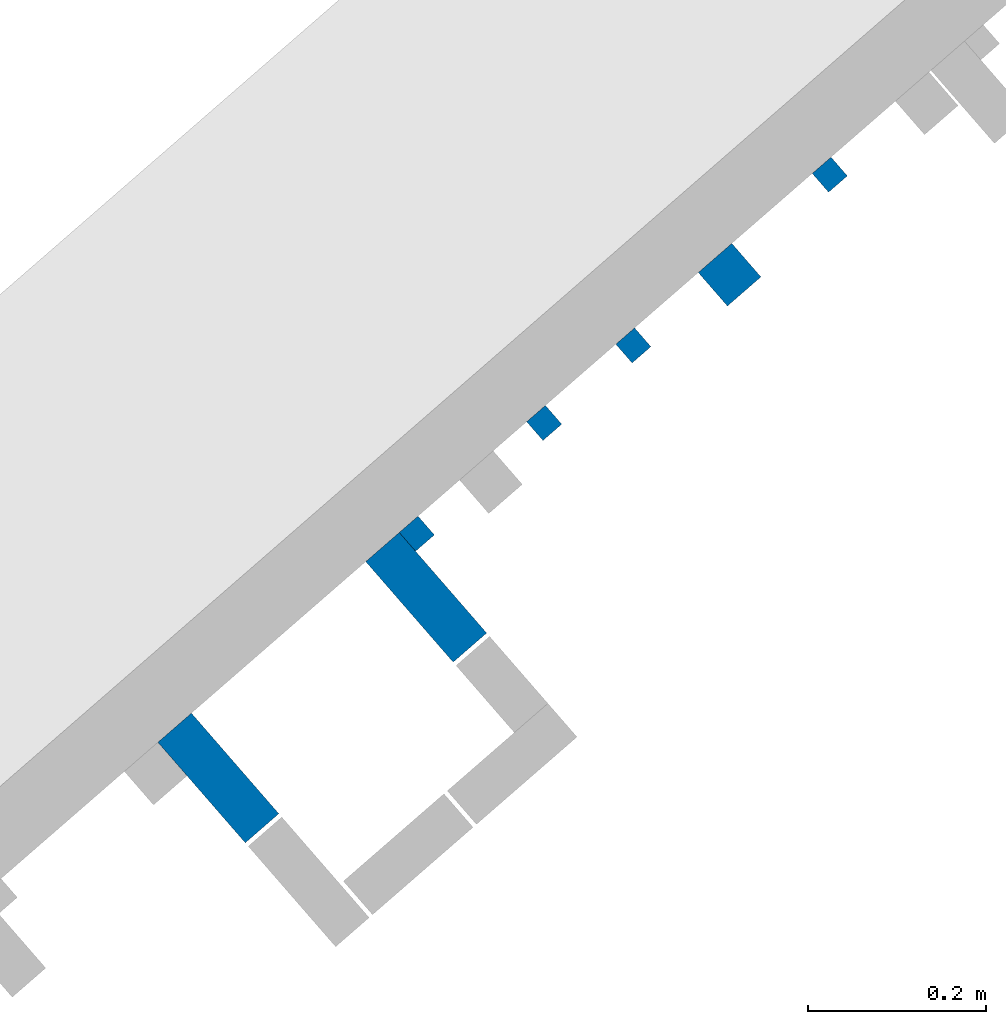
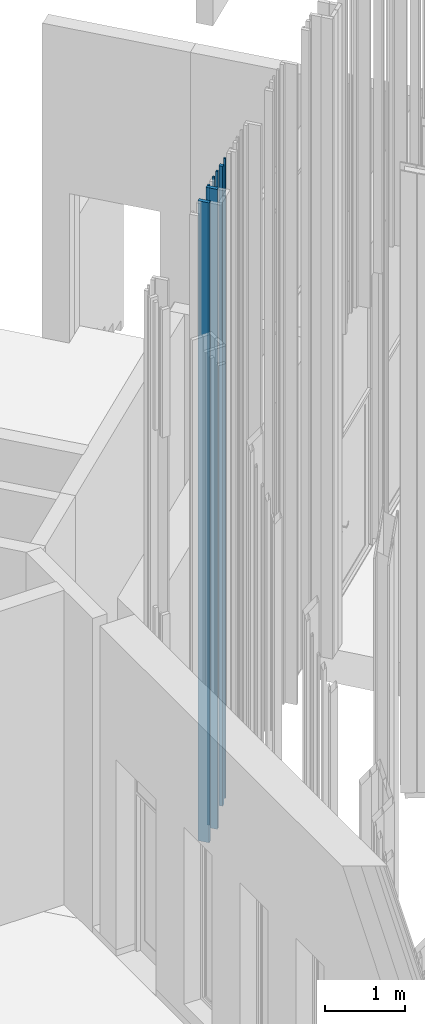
# One storey, part 197 of 390: 7 walls.
"""IFC2X3 building model written with IfcOpenShell, lengths in millimetres."""

from ifc_helpers import new_model, entity, si_unit, converted_unit, derived_unit, money_unit, direction, frame, origin_with_axes, place, context, subcontext, project, spatial, faceted_brep, material, type_object, element, save


model = new_model("IFC2X3")

# Units and contexts
model_context = context("Model", 3, precision=1e-05, world=origin_with_axes(), true_north=direction((0.0, 1.0)))
body_context = subcontext(model_context, "Body", "Model", "MODEL_VIEW")
ifc_project = project(units=[si_unit("LENGTHUNIT", "METRE", prefix="MILLI"), si_unit("AREAUNIT", "SQUARE_METRE"), si_unit("VOLUMEUNIT", "CUBIC_METRE"), converted_unit("PLANEANGLEUNIT", "DEGREE", entity("IfcPlaneAngleMeasure", 0.0174532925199), si_unit("PLANEANGLEUNIT", "RADIAN"), dimensions=[0, 0, 0, 0, 0, 0, 0]), si_unit("SOLIDANGLEUNIT", "STERADIAN"), money_unit("EUR"), converted_unit("TIMEUNIT", "Year", entity("IfcTimeMeasure", 31556926.0), si_unit("TIMEUNIT", "SECOND"), dimensions=[0, 0, 1, 0, 0, 0, 0]), si_unit("MASSUNIT", "GRAM", prefix="KILO"), si_unit("THERMODYNAMICTEMPERATUREUNIT", "DEGREE_CELSIUS"), si_unit("LUMINOUSINTENSITYUNIT", "LUMEN"), si_unit("ENERGYUNIT", "JOULE", prefix="MEGA"), derived_unit("THERMALCONDUCTANCEUNIT", [(si_unit("POWERUNIT", "WATT"), 1), (si_unit("LENGTHUNIT", "METRE"), -1), (si_unit("THERMODYNAMICTEMPERATUREUNIT", "KELVIN"), -1)]), derived_unit("SPECIFICHEATCAPACITYUNIT", [(si_unit("ENERGYUNIT", "JOULE"), 1), (si_unit("MASSUNIT", "GRAM", prefix="KILO"), -1), (si_unit("THERMODYNAMICTEMPERATUREUNIT", "KELVIN"), -1)]), derived_unit("MASSDENSITYUNIT", [(si_unit("MASSUNIT", "GRAM", prefix="KILO"), 1), (si_unit("VOLUMEUNIT", "CUBIC_METRE"), -1)])], contexts=[model_context])

# Site, building, storey
site_placement = place(None, origin_with_axes())
site = spatial("IfcSite", under=ifc_project, at=site_placement, Name="Site", CompositionType="ELEMENT")
building_placement = place(site_placement, origin_with_axes())
building = spatial("IfcBuilding", under=site, at=building_placement, Name="Building", CompositionType="ELEMENT")
storey_placement = place(building_placement, origin_with_axes())
storey = spatial("IfcBuildingStorey", under=building, at=storey_placement, Name="1 korrus", CompositionType="ELEMENT", Elevation=0.0)

# Walls
ifc_material = material(Name="Site specified")
wall_type_1 = type_object("IfcWallType", Name="Puitfassaadi ribistik", PredefinedType="NOTDEFINED")
wall_1_placement = place(storey_placement, frame((142121.066175, 68189.1497848, 100.0), z_axis=(0.0, 0.0, 1.0), x_axis=(-0.754709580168, -0.656059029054, 0.0)))
element("IfcWall", 1, at=wall_1_placement, inside=storey, type_object=wall_type_1, material=ifc_material, Name="Site specified", context=body_context, shape_type="Brep", body=[
    faceted_brep([(14.0, -14.0, 9765.0), (-14.0, -14.0, 9765.0), (-14.0, -14.0, 0.0), (14.0, -14.0, 0.0), (14.0, 14.0, 9765.0), (-14.0, 14.0, 9765.0), (-14.0, 14.0, 0.0), (14.0, 14.0, 0.0)], [[[0, 1, 2, 3]], [[4, 5, 1, 0]], [[1, 5, 6, 2]], [[7, 3, 2, 6]], [[4, 0, 3, 7]], [[5, 4, 7, 6]]]),
])
wall_2_placement = place(storey_placement, frame((142008.284001, 68076.5345938, 100.0), z_axis=(0.0, 0.0, 1.0), x_axis=(-0.754709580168, -0.656059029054, 0.0)))
element("IfcWall", 2, at=wall_2_placement, inside=storey, type_object=wall_type_1, material=ifc_material, Name="Site specified", context=body_context, shape_type="Brep", body=[
    faceted_brep([(-25.0, -25.0, 9765.0), (-25.0, -25.0, 0.0), (25.0, -25.0, 0.0), (25.0, -25.0, 9765.0), (-25.0, 25.0, 9765.0), (-25.0, 25.0, 0.0), (25.0, 25.0, 0.0), (25.0, 25.0, 9765.0)], [[[0, 1, 2, 3]], [[4, 5, 1, 0]], [[2, 1, 5, 6]], [[3, 2, 6, 7]], [[4, 0, 3, 7]], [[7, 6, 5, 4]]]),
])
for number, where, z_axis, x_axis, name in (
    (3, (141899.936268, 67996.9244893, 100.0), (0.0, 0.0, 1.0), (-0.754709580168, -0.656059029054, 0.0), "Site specified"),
    (4, (141799.559894, 67909.6686384, 100.0), (0.0, 0.0, 1.0), (-0.754709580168, -0.656059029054, 0.0), "Site specified"),
    (5, (141656.165074, 67785.0174233, 100.0), (0.0, 0.0, 1.0), (-0.754709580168, -0.656059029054, 0.0), "Site specified"),
):
    element("IfcWall", number, at=place(storey_placement, frame(where, z_axis=z_axis, x_axis=x_axis)), inside=storey, type_object=wall_type_1, material=ifc_material, Name=name, context=body_context, shape_type="Brep", body=[
        faceted_brep([(-14.0, -14.0, 9765.0), (-14.0, -14.0, 0.0), (14.0, -14.0, 0.0), (14.0, -14.0, 9765.0), (-14.0, 14.0, 9765.0), (-14.0, 14.0, 0.0), (14.0, 14.0, 0.0), (14.0, 14.0, 9765.0)], [[[0, 1, 2, 3]], [[4, 5, 1, 0]], [[2, 1, 5, 6]], [[3, 2, 6, 7]], [[4, 0, 3, 7]], [[7, 6, 5, 4]]]),
    ])
wall_type_2 = type_object("IfcWallType", Name="Puitfassaadi ribisik", PredefinedType="NOTDEFINED")
for number, where, z_axis, x_axis, name in (
    (6, (141666.750955, 67713.393889, 100.0), (0.0, 0.0, 1.0), (-0.754709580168, -0.656059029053, 0.0), "Site specified"),
    (7, (141432.791007, 67510.0155164, 100.0), (0.0, 0.0, 1.0), (-0.754709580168, -0.656059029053, 0.0), "Site specified"),
):
    element("IfcWall", number, at=place(storey_placement, frame(where, z_axis=z_axis, x_axis=x_axis)), inside=storey, type_object=wall_type_2, material=ifc_material, Name=name, context=body_context, shape_type="Brep", body=[
        faceted_brep([(-25.0, -75.0, 9764.9999949), (-25.0, -75.0, 0.0), (25.0, -75.0, 0.0), (25.0, -75.0, 9764.9999949), (-25.0, 75.0, 9764.9999949), (-25.0, 75.0, 0.0), (25.0, 75.0, 0.0), (25.0, 75.0, 9764.9999949)], [[[0, 1, 2, 3]], [[4, 5, 1, 0]], [[2, 1, 5, 6]], [[3, 2, 6, 7]], [[4, 0, 3, 7]], [[7, 6, 5, 4]]]),
    ])

save(model, "model.ifc")
